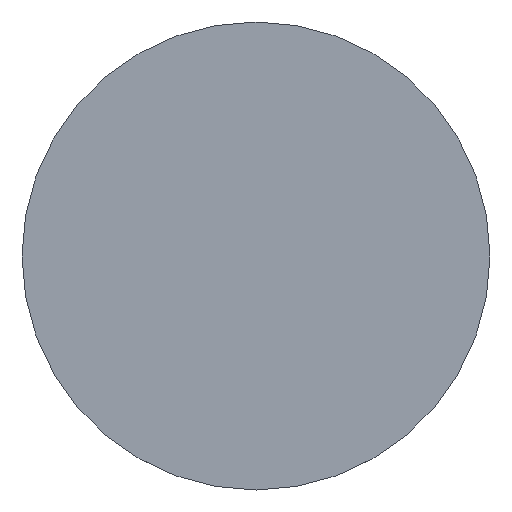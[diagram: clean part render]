
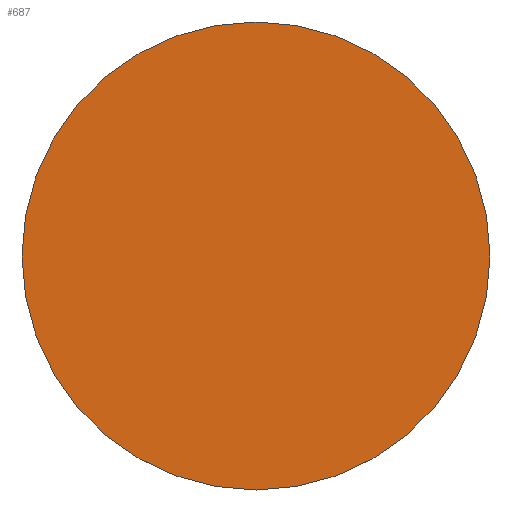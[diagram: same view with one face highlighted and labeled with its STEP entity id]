
A CAD part, top view. The second image highlights one B-rep face of the part: STEP entity #687.
In plain terms, the highlighted planar face has unit normal (0, 0, 1).
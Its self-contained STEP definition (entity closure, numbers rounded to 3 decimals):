
#245=FACE_OUTER_BOUND('',#1237,.T.);
#687=ADVANCED_FACE('',(#245),#755,.T.);
#755=PLANE('',#2738);
#1237=EDGE_LOOP('',(#1743));
#1743=ORIENTED_EDGE('',*,*,#2203,.T.);
#1950=VERTEX_POINT('',#4153);
#2203=EDGE_CURVE('',#1950,#1950,#2384,.T.);
#2384=CIRCLE('',#2737,750.);
#2737=AXIS2_PLACEMENT_3D('',#4152,#3516,#3517);
#2738=AXIS2_PLACEMENT_3D('',#4154,#3518,#3519);
#3516=DIRECTION('',(0.,0.,1.));
#3517=DIRECTION('',(1.,0.,0.));
#3518=DIRECTION('',(0.,0.,1.));
#3519=DIRECTION('',(1.,0.,0.));
#4152=CARTESIAN_POINT('',(0.,0.,739.));
#4153=CARTESIAN_POINT('',(750.,0.,739.));
#4154=CARTESIAN_POINT('',(0.,0.,739.));
